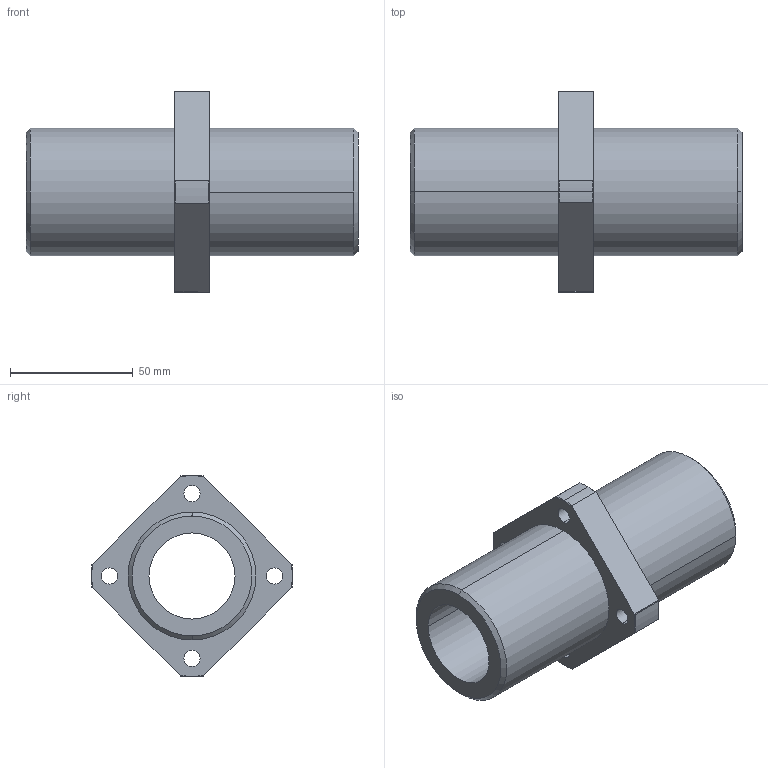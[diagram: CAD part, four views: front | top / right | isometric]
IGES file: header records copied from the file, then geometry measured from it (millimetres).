
Start section: 3D InterOp IGES (Version 21 0 1), Spatial Corp. Copyright (c) 1999-2007.
Global section: file name: CFPJ35.igs; native system: Spatial Corp.; preprocessor: 3D InterOp GENERIC/IGES 3.0; author: Noname; organization: Noname; date: 20220324.125900; units: millimetre
Bounding box: 135 x 81.94 x 82 mm (x, y, z)
Surface area: 44995.9 mm2 (no closed solid volume)
Topology: 0 solids, 0 shells, 53 faces, 264 edges, 264 vertices
Faces by surface type: revolution 41, extrusion 12
